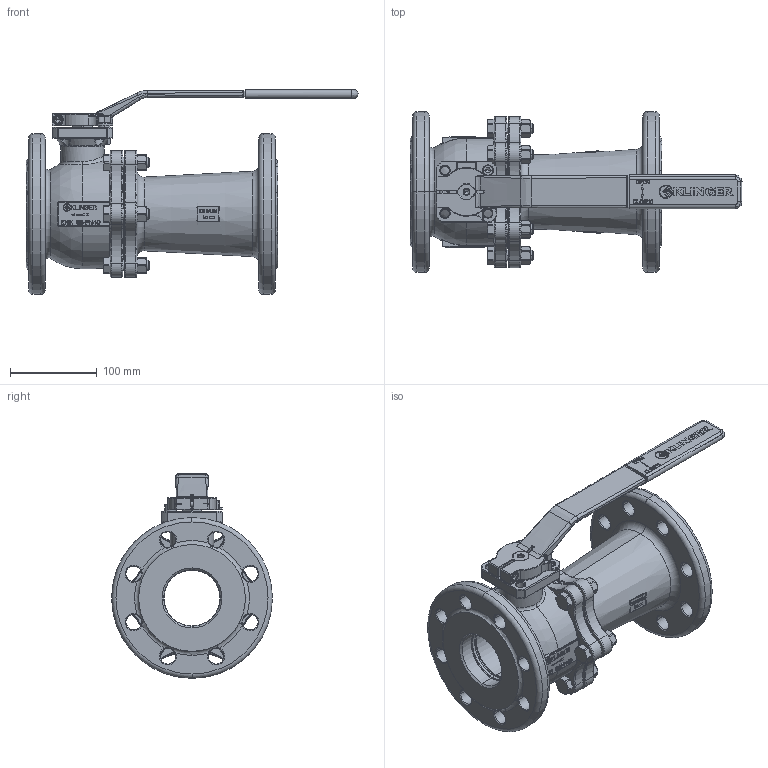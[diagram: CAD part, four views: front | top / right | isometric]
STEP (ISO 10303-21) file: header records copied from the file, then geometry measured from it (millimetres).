
FILE_DESCRIPTION((''),'2;1');
FILE_NAME('KHEFK065VFL065P040PKK','2015-08-10T',('mahrhauserh'),('RAND'),'PRO/ENGINEER BY PARAMETRIC TECHNOLOGY CORPORATION, 2013410','PRO/ENGINEER BY PARAMETRIC TECHNOLOGY CORPORATION, 2013410','');
FILE_SCHEMA(('CONFIG_CONTROL_DESIGN'));
Products named in the file (1): KHEFK065VFL065P040PKK
Bounding box: 382 x 185 x 235.55 mm (x, y, z)
Volume: 2515426.1 mm3; surface area: 462621.7 mm2
Topology: 1 solids, 1 shells, 3544 faces, 9290 edges, 5864 vertices
Faces by surface type: plane 2072, cylinder 536, torus 353, bspline 289, cone 259, sphere 35
Entity records: 137093 total; most frequent: CARTESIAN_POINT 50954, ORIENTED_EDGE 18568, DIRECTION 17151, EDGE_CURVE 9284, VECTOR 6059, LINE 6059, VERTEX_POINT 5864, AXIS2_PLACEMENT_3D 5546
